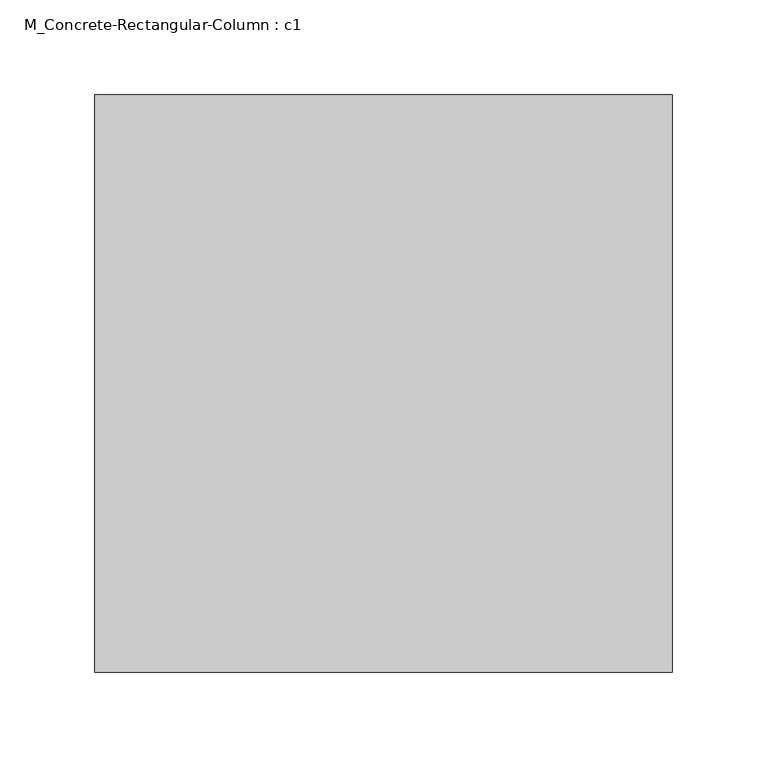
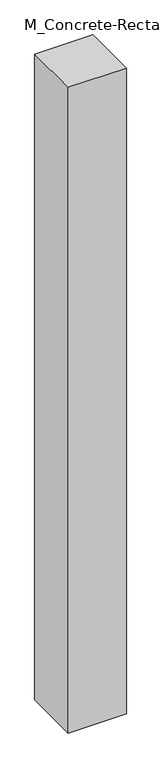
"""IFC4 building model written with IfcOpenShell, lengths in millimetres: column geometry, M_Concrete-Rectangular-Column : c1."""

from ifc_helpers import new_model, si_unit, origin, origin_with_axes, place, context, project, spatial, polyline, outline, extrude, source, transform, mapped, element, save


def m_concrete_rectangular_column_c1_cfff0284(model_context):
    return source(origin(), model_context, "Body", "SweptSolid", [
        extrude(outline(polyline([(152.4, 152.4), (152.4, -152.4), (-152.4, -152.4), (-152.4, 152.4), (152.4, 152.4)])), origin_with_axes(), (0.0, 0.0, 1.0), 3581.4),
    ])


if __name__ == "__main__":
    model = new_model("IFC4")
    model_context = context("Model", 3, world=origin())
    ifc_project = project(units=[si_unit("LENGTHUNIT", "METRE", prefix="MILLI")], contexts=[model_context])
    site = spatial("IfcSite", under=ifc_project)
    building = spatial("IfcBuilding", under=site)
    placement = place(None, origin())
    m_concrete_rectangular_column_c1_shape = m_concrete_rectangular_column_c1_cfff0284(model_context)
    element("IfcColumn", 1, ObjectType="M_Concrete-Rectangular-Column : c1", at=placement, inside=building, context=model_context, shape_type="MappedRepresentation", body=[
        mapped(m_concrete_rectangular_column_c1_shape, transform((0.0, 0.0, 0.0), x_axis=(1.0, 0.0, 0.0), y_axis=(0.0, 1.0, 0.0), z_axis=(0.0, 0.0, 1.0))),
    ])
    save(model, "model.ifc")
